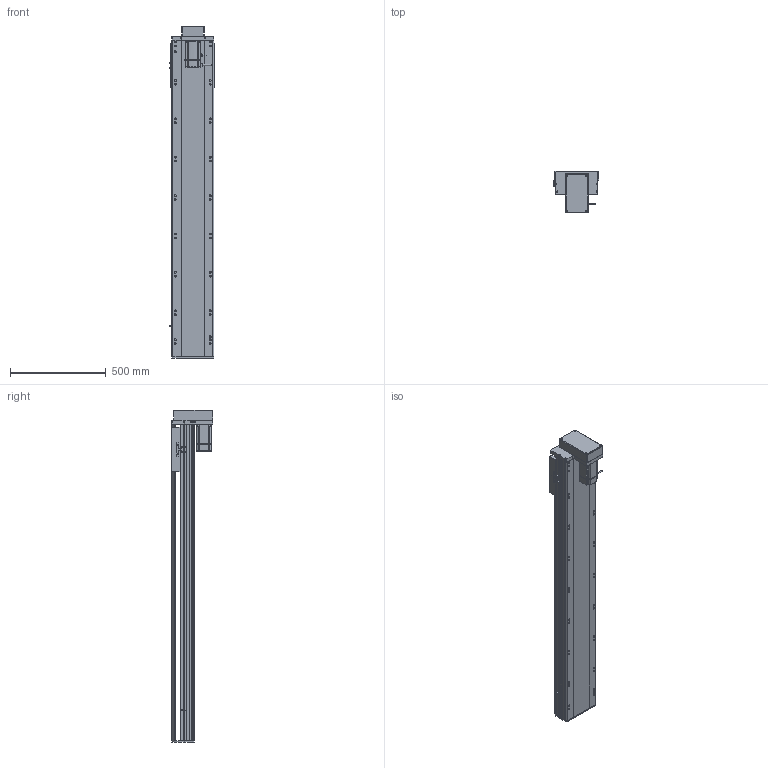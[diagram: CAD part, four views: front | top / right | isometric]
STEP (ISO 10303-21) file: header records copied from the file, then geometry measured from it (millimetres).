
FILE_DESCRIPTION (( 'STEP AP214' ), '1' );
FILE_NAME ('RTH22-XX-1350-M-M75-C4.STEP', '2025-10-24T11:14:39', ( 'Microsoft' ), ( 'Microsoft' ), 'SwSTEP 2.0', 'SolidWorks 2018', '' );
FILE_SCHEMA (( 'AUTOMOTIVE_DESIGN' ));
Length unit declared in the file: millimetre
Products named in the file (10): N_RTH22-M-018裔赽^RTH22-XX-XX-M-M75-C4; N_RTH22-GY-013外置感应片^RTH22-XX-XX-M-M75-C4; RTH22-XX-1350-M-M75-C4; N_RTH22-M-007奻裔^RTH22-XX-XX-M-M75-C4; N_RTH22-L-011菁釱^RTH22-XX-XX-M-M75-C4; N_RTH22-L-004-SFS25賑釱^RTH22-XX-XX-M-M75-C4; N_RTH22-M-008-P75萇儂啣^RTH22-XX-XX-M-M75-C4; N_750W萇儂^RTH22-XX-XX-M-M75-C4; N_OMRON EE-SX672 传感器^RTH22-XX-XX-M-M75-C4; N_RTH22-GY-001耜裔^RTH22-XX-XX-M-M75-C4
Assembly tree (11 placements, depth 2):
  RTH22-XX-1350-M-M75-C4
    N_RTH22-L-011菁釱^RTH22-XX-XX-M-M75-C4
    N_RTH22-GY-001耜裔^RTH22-XX-XX-M-M75-C4
    N_750W萇儂^RTH22-XX-XX-M-M75-C4
    N_RTH22-M-008-P75萇儂啣^RTH22-XX-XX-M-M75-C4
    N_RTH22-M-007奻裔^RTH22-XX-XX-M-M75-C4
    N_RTH22-M-018裔赽^RTH22-XX-XX-M-M75-C4
    N_OMRON EE-SX672 传感器^RTH22-XX-XX-M-M75-C4  x3
    N_RTH22-GY-013外置感应片^RTH22-XX-XX-M-M75-C4
    N_RTH22-L-004-SFS25賑釱^RTH22-XX-XX-M-M75-C4
Bounding box: 238.5 x 218.5 x 1729.7 mm (x, y, z)
Volume: 22926128.4 mm3; surface area: 2470862 mm2
Topology: 11 solids, 11 shells, 1659 faces, 4530 edges, 2915 vertices
Faces by surface type: plane 811, cylinder 499, bspline 279, cone 70
Entity records: 42315 total; most frequent: CARTESIAN_POINT 12660, ORIENTED_EDGE 6012, DIRECTION 5720, EDGE_CURVE 3006, VERTEX_POINT 1951, AXIS2_PLACEMENT_3D 1939, VECTOR 1842, LINE 1842
